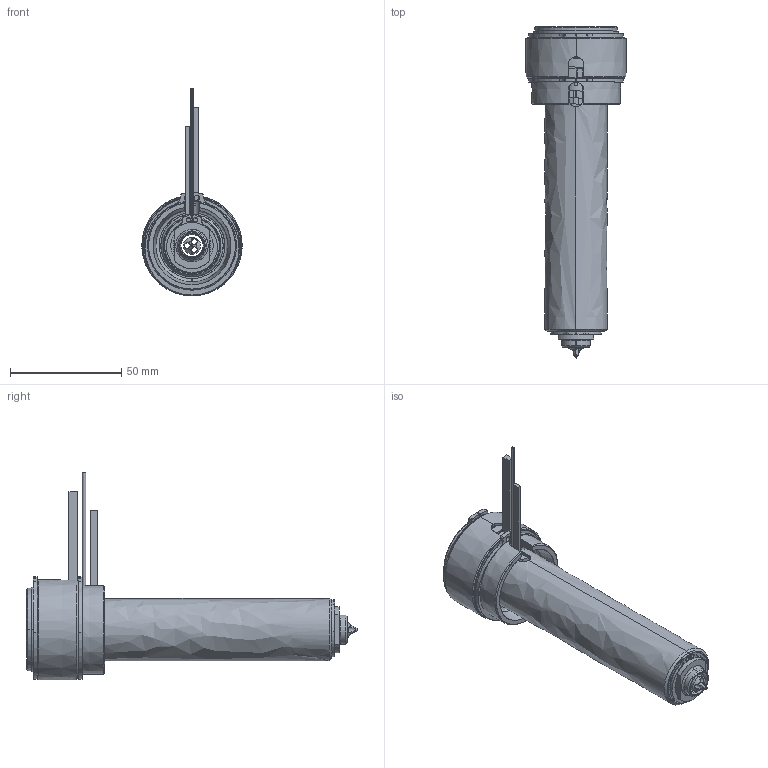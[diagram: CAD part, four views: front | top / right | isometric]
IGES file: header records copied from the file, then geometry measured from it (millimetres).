
Start section: SolidWorks IGES file using analytic representation for surfaces
Global section: file name: C:\Documents and Settings\ws-20\Desktop\TEM\UGEP4503-M-A-1 [Øf-0.88 ØC-10].IGS; native system: SolidWorks 2012; preprocessor: SolidWorks 2012; author: ws-20; date: 120424.090725; units: millimetre
Bounding box: 45 x 149.05 x 93.15 mm (x, y, z)
Surface area: 54914.4 mm2 (no closed solid volume)
Topology: 0 solids, 0 shells, 182 faces, 3390 edges, 3390 vertices
Faces by surface type: revolution 113, bspline 69
